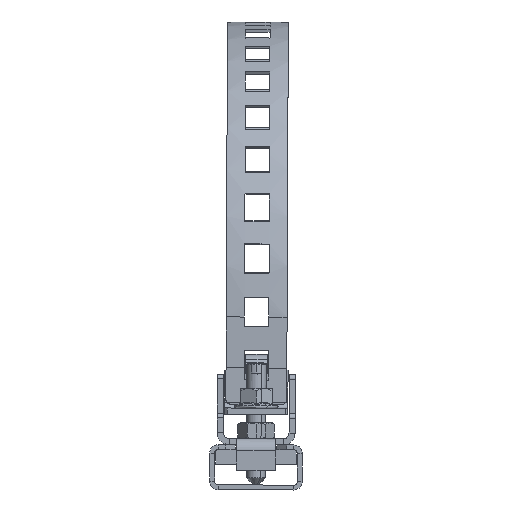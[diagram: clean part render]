
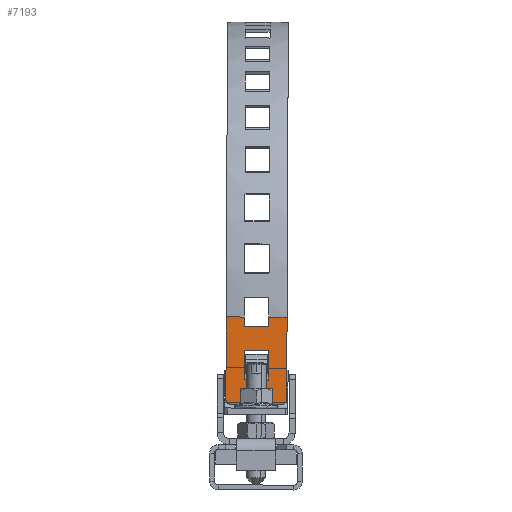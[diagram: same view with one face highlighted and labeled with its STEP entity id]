
A CAD part, left-side view. The second image highlights one B-rep face of the part: STEP entity #7193.
In plain terms, the highlighted planar face has unit normal (-1, 0, 0) as drawn and (0, 0, -1) by its records, which use the part's own axes.
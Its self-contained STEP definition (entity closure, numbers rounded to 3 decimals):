
#97 = VECTOR ( 'NONE', #10456, 1000. ) ;
#342 = CARTESIAN_POINT ( 'NONE',  ( 193., -5., -242.4 ) ) ;
#366 = VECTOR ( 'NONE', #8498, 1000. ) ;
#384 = CARTESIAN_POINT ( 'NONE',  ( 189.155, -12.5, -242.4 ) ) ;
#498 = LINE ( 'NONE', #5608, #2679 ) ;
#679 = CARTESIAN_POINT ( 'NONE',  ( 223., 12.5, -242.4 ) ) ;
#697 = DIRECTION ( 'NONE',  ( 1., 0., 0. ) ) ;
#720 = EDGE_CURVE ( 'NONE', #1328, #4268, #1358, .T. ) ;
#1059 = ORIENTED_EDGE ( 'NONE', *, *, #5208, .T. ) ;
#1141 = CARTESIAN_POINT ( 'NONE',  ( 203., -5., -242.4 ) ) ;
#1151 = ORIENTED_EDGE ( 'NONE', *, *, #1308, .T. ) ;
#1199 = VECTOR ( 'NONE', #7185, 1000. ) ;
#1211 = LINE ( 'NONE', #10199, #5303 ) ;
#1308 = EDGE_CURVE ( 'NONE', #6411, #5453, #3959, .T. ) ;
#1328 = VERTEX_POINT ( 'NONE', #7486 ) ;
#1358 = LINE ( 'NONE', #1651, #6038 ) ;
#1370 = VERTEX_POINT ( 'NONE', #4624 ) ;
#1607 = EDGE_LOOP ( 'NONE', ( #11261, #4062, #2520, #3362 ) ) ;
#1651 = CARTESIAN_POINT ( 'NONE',  ( 193., -5., -242.4 ) ) ;
#1722 = VERTEX_POINT ( 'NONE', #679 ) ;
#1887 = CARTESIAN_POINT ( 'NONE',  ( 225., -12.5, -242.4 ) ) ;
#1933 = DIRECTION ( 'NONE',  ( 0., -1., 0. ) ) ;
#2207 = VERTEX_POINT ( 'NONE', #10858 ) ;
#2331 = DIRECTION ( 'NONE',  ( 0., -1., 0. ) ) ;
#2500 = VECTOR ( 'NONE', #10248, 1000. ) ;
#2520 = ORIENTED_EDGE ( 'NONE', *, *, #5083, .F. ) ;
#2679 = VECTOR ( 'NONE', #9358, 1000. ) ;
#3131 = EDGE_CURVE ( 'NONE', #10894, #2207, #5638, .T. ) ;
#3306 = CARTESIAN_POINT ( 'NONE',  ( 215., -5., -242.4 ) ) ;
#3362 = ORIENTED_EDGE ( 'NONE', *, *, #7726, .F. ) ;
#3791 = ORIENTED_EDGE ( 'NONE', *, *, #8213, .F. ) ;
#3879 = LINE ( 'NONE', #1887, #97 ) ;
#3959 = LINE ( 'NONE', #11725, #1199 ) ;
#4062 = ORIENTED_EDGE ( 'NONE', *, *, #3131, .F. ) ;
#4091 = LINE ( 'NONE', #3306, #5860 ) ;
#4095 = CARTESIAN_POINT ( 'NONE',  ( 189.155, -5., -242.4 ) ) ;
#4186 = VERTEX_POINT ( 'NONE', #11306 ) ;
#4268 = VERTEX_POINT ( 'NONE', #342 ) ;
#4325 = DIRECTION ( 'NONE',  ( 0., 0., -1. ) ) ;
#4345 = CARTESIAN_POINT ( 'NONE',  ( 225., 10.5, -242.4 ) ) ;
#4351 = ORIENTED_EDGE ( 'NONE', *, *, #7805, .T. ) ;
#4462 = PLANE ( 'NONE',  #10637 ) ;
#4555 = EDGE_CURVE ( 'NONE', #4268, #5453, #10919, .T. ) ;
#4624 = CARTESIAN_POINT ( 'NONE',  ( 215., -5., -242.4 ) ) ;
#4703 = DIRECTION ( 'NONE',  ( 0., 1., 0. ) ) ;
#4749 = ORIENTED_EDGE ( 'NONE', *, *, #4555, .F. ) ;
#4858 = CIRCLE ( 'NONE', #6916, 2. ) ;
#4983 = LINE ( 'NONE', #7418, #2500 ) ;
#4991 = CARTESIAN_POINT ( 'NONE',  ( 189.155, 0., -242.4 ) ) ;
#5083 = EDGE_CURVE ( 'NONE', #1370, #10894, #498, .T. ) ;
#5208 = EDGE_CURVE ( 'NONE', #11831, #11264, #1211, .T. ) ;
#5233 = VERTEX_POINT ( 'NONE', #6737 ) ;
#5303 = VECTOR ( 'NONE', #1933, 1000. ) ;
#5380 = DIRECTION ( 'NONE',  ( 0., 0., -1. ) ) ;
#5453 = VERTEX_POINT ( 'NONE', #4095 ) ;
#5549 = FACE_BOUND ( 'NONE', #1607, .T. ) ;
#5606 = VECTOR ( 'NONE', #10091, 1000. ) ;
#5608 = CARTESIAN_POINT ( 'NONE',  ( 215., -5., -242.4 ) ) ;
#5638 = LINE ( 'NONE', #11194, #6246 ) ;
#5860 = VECTOR ( 'NONE', #2331, 1000. ) ;
#5871 = EDGE_CURVE ( 'NONE', #8066, #8234, #8126, .T. ) ;
#6038 = VECTOR ( 'NONE', #9015, 1000. ) ;
#6097 = DIRECTION ( 'NONE',  ( 1., 0., 0. ) ) ;
#6246 = VECTOR ( 'NONE', #4703, 1000. ) ;
#6270 = VECTOR ( 'NONE', #9879, 1000. ) ;
#6411 = VERTEX_POINT ( 'NONE', #384 ) ;
#6737 = CARTESIAN_POINT ( 'NONE',  ( 223., -12.5, -242.4 ) ) ;
#6916 = AXIS2_PLACEMENT_3D ( 'NONE', #8062, #4325, #6097 ) ;
#6943 = ORIENTED_EDGE ( 'NONE', *, *, #10478, .T. ) ;
#7185 = DIRECTION ( 'NONE',  ( 0., 1., 0. ) ) ;
#7193 = ADVANCED_FACE ( 'NONE', ( #5549, #12016 ), #4462, .F. ) ;
#7394 = EDGE_LOOP ( 'NONE', ( #11557, #1151, #4749, #9592, #3791, #7583, #6943, #4351, #1059, #9550 ) ) ;
#7406 = DIRECTION ( 'NONE',  ( 1., 0., 0. ) ) ;
#7418 = CARTESIAN_POINT ( 'NONE',  ( 215., 5., -242.4 ) ) ;
#7476 = CARTESIAN_POINT ( 'NONE',  ( 0., 0., -242.4 ) ) ;
#7486 = CARTESIAN_POINT ( 'NONE',  ( 193., 5., -242.4 ) ) ;
#7583 = ORIENTED_EDGE ( 'NONE', *, *, #5871, .T. ) ;
#7726 = EDGE_CURVE ( 'NONE', #4186, #1370, #4091, .T. ) ;
#7805 = EDGE_CURVE ( 'NONE', #1722, #11831, #4858, .T. ) ;
#8049 = CARTESIAN_POINT ( 'NONE',  ( 193., 5., -242.4 ) ) ;
#8062 = CARTESIAN_POINT ( 'NONE',  ( 223., 10.5, -242.4 ) ) ;
#8066 = VERTEX_POINT ( 'NONE', #9751 ) ;
#8126 = LINE ( 'NONE', #4991, #11299 ) ;
#8167 = LINE ( 'NONE', #10345, #366 ) ;
#8213 = EDGE_CURVE ( 'NONE', #8066, #1328, #8929, .T. ) ;
#8234 = VERTEX_POINT ( 'NONE', #10820 ) ;
#8443 = DIRECTION ( 'NONE',  ( 0., 0., 1. ) ) ;
#8498 = DIRECTION ( 'NONE',  ( 1., 0., 0. ) ) ;
#8929 = LINE ( 'NONE', #8049, #6270 ) ;
#8987 = EDGE_CURVE ( 'NONE', #11264, #5233, #10667, .T. ) ;
#9015 = DIRECTION ( 'NONE',  ( 0., -1., 0. ) ) ;
#9170 = CARTESIAN_POINT ( 'NONE',  ( 223., -10.5, -242.4 ) ) ;
#9279 = EDGE_CURVE ( 'NONE', #5233, #6411, #3879, .T. ) ;
#9358 = DIRECTION ( 'NONE',  ( -1., 0., 0. ) ) ;
#9550 = ORIENTED_EDGE ( 'NONE', *, *, #8987, .T. ) ;
#9592 = ORIENTED_EDGE ( 'NONE', *, *, #720, .F. ) ;
#9751 = CARTESIAN_POINT ( 'NONE',  ( 189.155, 5., -242.4 ) ) ;
#9879 = DIRECTION ( 'NONE',  ( 1., 0., 0. ) ) ;
#10091 = DIRECTION ( 'NONE',  ( -1., 0., 0. ) ) ;
#10199 = CARTESIAN_POINT ( 'NONE',  ( 225., -12.5, -242.4 ) ) ;
#10248 = DIRECTION ( 'NONE',  ( 1., 0., 0. ) ) ;
#10345 = CARTESIAN_POINT ( 'NONE',  ( 225., 12.5, -242.4 ) ) ;
#10456 = DIRECTION ( 'NONE',  ( -1., 0., 0. ) ) ;
#10478 = EDGE_CURVE ( 'NONE', #8234, #1722, #8167, .T. ) ;
#10637 = AXIS2_PLACEMENT_3D ( 'NONE', #7476, #8443, #7406 ) ;
#10667 = CIRCLE ( 'NONE', #11685, 2. ) ;
#10820 = CARTESIAN_POINT ( 'NONE',  ( 189.155, 12.5, -242.4 ) ) ;
#10858 = CARTESIAN_POINT ( 'NONE',  ( 203., 5., -242.4 ) ) ;
#10894 = VERTEX_POINT ( 'NONE', #1141 ) ;
#10919 = LINE ( 'NONE', #10948, #5606 ) ;
#10948 = CARTESIAN_POINT ( 'NONE',  ( 193., -5., -242.4 ) ) ;
#11194 = CARTESIAN_POINT ( 'NONE',  ( 203., -5., -242.4 ) ) ;
#11261 = ORIENTED_EDGE ( 'NONE', *, *, #11431, .F. ) ;
#11264 = VERTEX_POINT ( 'NONE', #12108 ) ;
#11299 = VECTOR ( 'NONE', #11550, 1000. ) ;
#11306 = CARTESIAN_POINT ( 'NONE',  ( 215., 5., -242.4 ) ) ;
#11431 = EDGE_CURVE ( 'NONE', #2207, #4186, #4983, .T. ) ;
#11550 = DIRECTION ( 'NONE',  ( 0., 1., 0. ) ) ;
#11557 = ORIENTED_EDGE ( 'NONE', *, *, #9279, .T. ) ;
#11685 = AXIS2_PLACEMENT_3D ( 'NONE', #9170, #5380, #697 ) ;
#11725 = CARTESIAN_POINT ( 'NONE',  ( 189.155, 0., -242.4 ) ) ;
#11831 = VERTEX_POINT ( 'NONE', #4345 ) ;
#12016 = FACE_OUTER_BOUND ( 'NONE', #7394, .T. ) ;
#12108 = CARTESIAN_POINT ( 'NONE',  ( 225., -10.5, -242.4 ) ) ;
